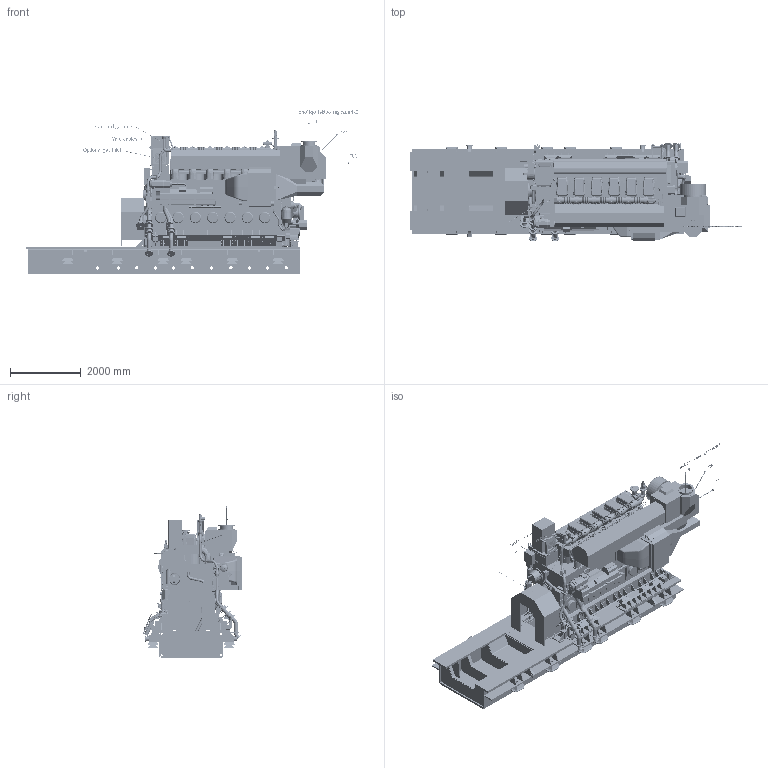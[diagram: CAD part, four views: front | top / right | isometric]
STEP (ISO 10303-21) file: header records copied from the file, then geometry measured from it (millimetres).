
FILE_DESCRIPTION(/* description */ (''),/* implementation_level */ '2;1');
FILE_NAME(/* name */ 'DAAF380656_B--.stp',/* time_stamp */ '2021-12-10T09:56:23+02:00',/* author */ (''),/* organization */ (''),/* preprocessor_version */ 'ST-DEVELOPER v16.7',/* originating_system */ 'SIEMENS PLM Software NX 1915',/* authorisation */ '');
FILE_SCHEMA (('AUTOMOTIVE_DESIGN { 1 0 10303 214 3 1 1 1 }'));
Products named in the file (74): PABA065852_-; PABA089633_-; PABA311381_-; PAAF093447_-; PAAF906213_-; PAAF243623_-; PABA135981_-; PAAF909498_-; PAAF909496_-; PAAF675626_-; PAAF270351_-; PAAF906214_-; PABA065520_-; PAAF078708_-; PAAF721110_-; PABA142427_-; PAAF776393_-; PAAF681232_-; PAAF354712_-; PABA086611_-; PAAF683775_-; PABA065492_-; PAAF379162_-; PAAF407516_-; PABA147579_-; PAAF671497_-; PAAF078621_-; PAAF078702_-; PAAF068492_-; PAAF920689_-; PAAF093819_-; PAAF093585_-; PAAF271372_-; PAAF074442_-; PAAF087145_-; PAAF243686_-; PAAF243744_-; PAAF087136_-; PAAF247471_-; PAAF247485_-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
Assembly tree (85 placements, depth 3):
  DAAF380656_B
    PABA320172_-
    PABA319987_-
      PAAF063630_-
      PABA036848_-
      PAAF238216_-
      PAAF291916_-
      PAAF906204_-
      PAAF063769_-
      PAAF895907_-
      PAAF895909_-
      PAAF906209_-
      PAAF064319_-
      PAAF906211_-
      PAAF074388_-
      PAAF555086_-  x2
      PAAF555085_-  x2
      PAAF243671_-
      PAAF555902_-
      PAAF078074_-
      PAAF247479_-
      PAAF397145_-
      PAAF559689_-
      PAAF078241_-
      PAAF087122_-
      PAAF087114_-
      PAAF087082_-
      PAAF087111_-
      PAAF975683_-
      PAAF975946_-  x5
      PAAF975926_-  x6
      PABA066964_-
      PAAF247485_-
      PAAF247471_-
      PAAF087136_-
      PAAF243744_-
      PAAF243686_-
      PAAF087145_-
      PAAF074442_-
      PAAF271372_-
      PAAF093585_-
      PAAF093819_-
      PAAF920689_-
      PAAF068492_-
      PAAF078702_-
      PAAF078621_-
      PAAF671497_-
      PABA147579_-
      PAAF407516_-
      PAAF379162_-  x2
      PABA065492_-
      PAAF683775_-
      PABA086611_-
      PAAF354712_-
      PAAF681232_-
      PAAF776393_-
      PABA142427_-
      PAAF721110_-
      PAAF078708_-
      PABA065520_-
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Bounding box: 9392.63 x 2801.94 x 4642.62 mm (x, y, z)
Volume: 23108530804.4 mm3; surface area: 433570272 mm2
Topology: 740 solids, 754 shells, 20754 faces, 51121 edges, 33185 vertices
Faces by surface type: plane 11948, cylinder 5367, bspline 1806, extrusion 899, torus 366, cone 229, revolution 83, sphere 56
Full cylindrical faces by diameter (mm): 1 x6, 3 x3, 6 x7, 6.4 x4, 7.077 x1, 8 x40, 8.5 x44, 9 x20, 9.7 x1, 10 x62, 10.2 x28, 11 x3, 11.908 x1, 12 x147, 12.3 x1, 13 x2, 13.2 x4, 13.5 x4, 14 x76, 14.5 x2, 15 x11, 15.6 x4, 15.7 x4, 16 x365, 16.2 x3, 16.376 x1, 16.7 x1, 16.8 x1, 17 x9, 17.5 x4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
Entity records: 765613 total; most frequent: CARTESIAN_POINT 285160, ORIENTED_EDGE 90486, DIRECTION 89147, EDGE_CURVE 45243, VERTEX_POINT 31204, AXIS2_PLACEMENT_3D 30096, VECTOR 28872, LINE 27973
